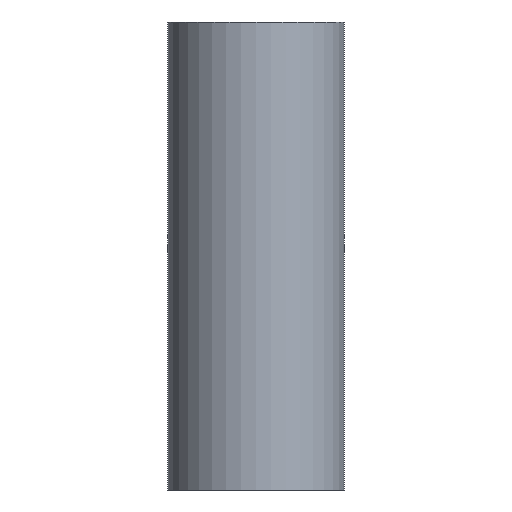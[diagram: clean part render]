
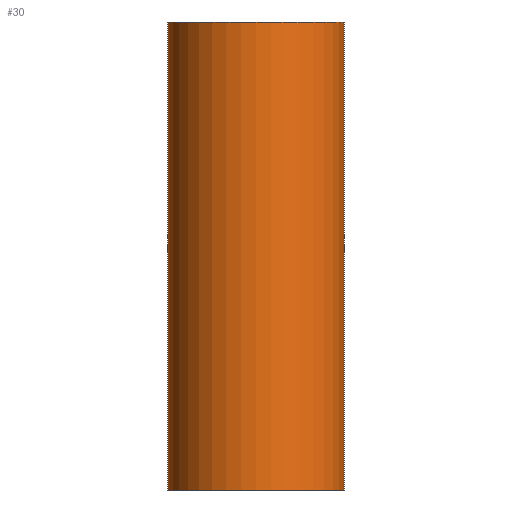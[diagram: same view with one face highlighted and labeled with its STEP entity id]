
A CAD part, front view. The second image highlights one B-rep face of the part: STEP entity #30.
In plain terms, the highlighted cylindrical face has radius 17 mm (diameter 34 mm), a partial arc.
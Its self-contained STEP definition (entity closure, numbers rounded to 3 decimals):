
#7 = VECTOR ( 'NONE', #70, 1000. ) ;
#11 = CIRCLE ( 'NONE', #33, 17. ) ;
#14 = CARTESIAN_POINT ( 'NONE',  ( -17., 0., 90. ) ) ;
#21 = CARTESIAN_POINT ( 'NONE',  ( 0., 0., 0. ) ) ;
#30 = ADVANCED_FACE ( 'NONE', ( #242 ), #83, .T. ) ;
#33 = AXIS2_PLACEMENT_3D ( 'NONE', #265, #111, #293 ) ;
#34 = EDGE_CURVE ( 'NONE', #107, #68, #202, .T. ) ;
#46 = EDGE_CURVE ( 'NONE', #203, #56, #206, .T. ) ;
#56 = VERTEX_POINT ( 'NONE', #99 ) ;
#68 = VERTEX_POINT ( 'NONE', #221 ) ;
#70 = DIRECTION ( 'NONE',  ( 0., 0., -1. ) ) ;
#77 = DIRECTION ( 'NONE',  ( -1., 0., 0. ) ) ;
#83 = CYLINDRICAL_SURFACE ( 'NONE', #273, 17. ) ;
#92 = CIRCLE ( 'NONE', #177, 17. ) ;
#99 = CARTESIAN_POINT ( 'NONE',  ( 17., 0., 0. ) ) ;
#104 = CARTESIAN_POINT ( 'NONE',  ( 0., 0., 90. ) ) ;
#107 = VERTEX_POINT ( 'NONE', #14 ) ;
#111 = DIRECTION ( 'NONE',  ( 0., 0., 1. ) ) ;
#114 = EDGE_CURVE ( 'NONE', #68, #56, #92, .T. ) ;
#118 = DIRECTION ( 'NONE',  ( 0., 0., -1. ) ) ;
#128 = ORIENTED_EDGE ( 'NONE', *, *, #114, .T. ) ;
#154 = VECTOR ( 'NONE', #118, 1000. ) ;
#177 = AXIS2_PLACEMENT_3D ( 'NONE', #21, #188, #255 ) ;
#186 = CARTESIAN_POINT ( 'NONE',  ( 17., 0., 90. ) ) ;
#188 = DIRECTION ( 'NONE',  ( 0., 0., 1. ) ) ;
#202 = LINE ( 'NONE', #224, #7 ) ;
#203 = VERTEX_POINT ( 'NONE', #311 ) ;
#206 = LINE ( 'NONE', #186, #154 ) ;
#221 = CARTESIAN_POINT ( 'NONE',  ( -17., 0., 0. ) ) ;
#224 = CARTESIAN_POINT ( 'NONE',  ( -17., 0., 90. ) ) ;
#242 = FACE_OUTER_BOUND ( 'NONE', #247, .T. ) ;
#243 = ORIENTED_EDGE ( 'NONE', *, *, #252, .F. ) ;
#247 = EDGE_LOOP ( 'NONE', ( #271, #243, #269, #128 ) ) ;
#252 = EDGE_CURVE ( 'NONE', #107, #203, #11, .T. ) ;
#255 = DIRECTION ( 'NONE',  ( 1., 0., 0. ) ) ;
#265 = CARTESIAN_POINT ( 'NONE',  ( 0., 0., 90. ) ) ;
#269 = ORIENTED_EDGE ( 'NONE', *, *, #34, .T. ) ;
#271 = ORIENTED_EDGE ( 'NONE', *, *, #46, .F. ) ;
#273 = AXIS2_PLACEMENT_3D ( 'NONE', #104, #308, #77 ) ;
#293 = DIRECTION ( 'NONE',  ( 1., 0., 0. ) ) ;
#308 = DIRECTION ( 'NONE',  ( 0., 0., -1. ) ) ;
#311 = CARTESIAN_POINT ( 'NONE',  ( 17., 0., 90. ) ) ;
